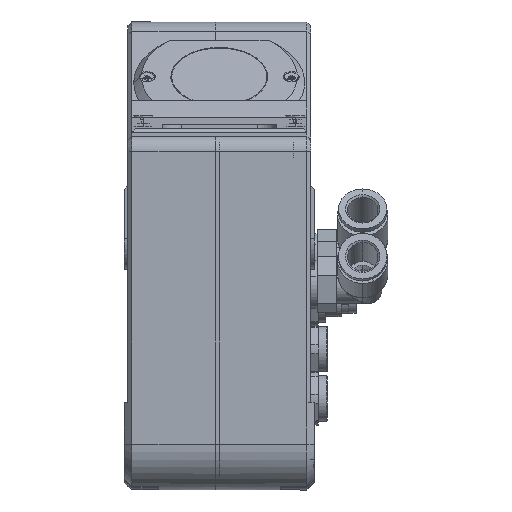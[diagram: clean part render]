
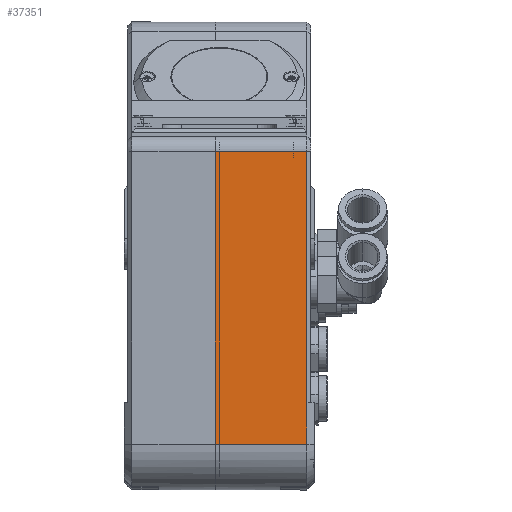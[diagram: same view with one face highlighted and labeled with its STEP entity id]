
A CAD part, front view. The second image highlights one B-rep face of the part: STEP entity #37351.
In plain terms, the highlighted planar face has unit normal (0, -1, 0) as drawn and (0, 0, -1) by its records, which use the part's own axes.
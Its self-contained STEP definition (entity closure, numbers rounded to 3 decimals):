
#960 = CARTESIAN_POINT ( 'NONE',  ( -69., -1., -254.392 ) ) ;
#1166 = CARTESIAN_POINT ( 'NONE',  ( 8., -1., -254.392 ) ) ;
#1171 = CARTESIAN_POINT ( 'NONE',  ( -58., 23., -254.392 ) ) ;
#1173 = CARTESIAN_POINT ( 'NONE',  ( 8., 23., -254.392 ) ) ;
#1184 = CARTESIAN_POINT ( 'NONE',  ( -69., 23., -254.392 ) ) ;
#8629 = PLANE ( 'NONE',  #48961 ) ;
#8647 = CARTESIAN_POINT ( 'NONE',  ( -69., 24., -254.392 ) ) ;
#8648 = DIRECTION ( 'NONE',  ( 0., 0., 1. ) ) ;
#8649 = DIRECTION ( 'NONE',  ( 1., 0., 0. ) ) ;
#10112 = FACE_OUTER_BOUND ( 'NONE', #43816, .T. ) ;
#13299 = EDGE_CURVE ( 'NONE', #18873, #18744, #42301, .T. ) ;
#13301 = EDGE_CURVE ( 'NONE', #18873, #18866, #42285, .T. ) ;
#13303 = EDGE_CURVE ( 'NONE', #18866, #18867, #42303, .T. ) ;
#13305 = EDGE_CURVE ( 'NONE', #18867, #18863, #42307, .T. ) ;
#13307 = EDGE_CURVE ( 'NONE', #18744, #18863, #42309, .T. ) ;
#15149 = ORIENTED_EDGE ( 'NONE', *, *, #13307, .F. ) ;
#15151 = ORIENTED_EDGE ( 'NONE', *, *, #13305, .T. ) ;
#15153 = ORIENTED_EDGE ( 'NONE', *, *, #13303, .T. ) ;
#15155 = ORIENTED_EDGE ( 'NONE', *, *, #13301, .T. ) ;
#15157 = ORIENTED_EDGE ( 'NONE', *, *, #13299, .F. ) ;
#18744 = VERTEX_POINT ( 'NONE', #960 ) ;
#18863 = VERTEX_POINT ( 'NONE', #1166 ) ;
#18866 = VERTEX_POINT ( 'NONE', #1171 ) ;
#18867 = VERTEX_POINT ( 'NONE', #1173 ) ;
#18873 = VERTEX_POINT ( 'NONE', #1184 ) ;
#37351 = ADVANCED_FACE ( 'NONE', ( #10112 ), #8629, .F. ) ;
#38102 = CARTESIAN_POINT ( 'NONE',  ( -69., 23., -254.392 ) ) ;
#38104 = CARTESIAN_POINT ( 'NONE',  ( -69., 23., -254.392 ) ) ;
#38108 = CARTESIAN_POINT ( 'NONE',  ( -69., 24., -254.392 ) ) ;
#38109 = DIRECTION ( 'NONE',  ( 0., -1., 0. ) ) ;
#38111 = DIRECTION ( 'NONE',  ( 1., 0., 0. ) ) ;
#38112 = DIRECTION ( 'NONE',  ( 1., 0., 0. ) ) ;
#38114 = CARTESIAN_POINT ( 'NONE',  ( 8., 24., -254.392 ) ) ;
#38115 = DIRECTION ( 'NONE',  ( 0., -1., 0. ) ) ;
#38116 = CARTESIAN_POINT ( 'NONE',  ( 8., -1., -254.392 ) ) ;
#38118 = DIRECTION ( 'NONE',  ( 1., 0., 0. ) ) ;
#42285 = LINE ( 'NONE', #38104, #42306 ) ;
#42301 = LINE ( 'NONE', #38108, #42304 ) ;
#42303 = LINE ( 'NONE', #38102, #42308 ) ;
#42304 = VECTOR ( 'NONE', #38109, 1000. ) ;
#42306 = VECTOR ( 'NONE', #38111, 1000. ) ;
#42307 = LINE ( 'NONE', #38114, #42310 ) ;
#42308 = VECTOR ( 'NONE', #38112, 1000. ) ;
#42309 = LINE ( 'NONE', #38116, #42312 ) ;
#42310 = VECTOR ( 'NONE', #38115, 1000. ) ;
#42312 = VECTOR ( 'NONE', #38118, 1000. ) ;
#43816 = EDGE_LOOP ( 'NONE', ( #15157, #15155, #15153, #15151, #15149 ) ) ;
#48961 = AXIS2_PLACEMENT_3D ( 'NONE', #8647, #8648, #8649 ) ;
